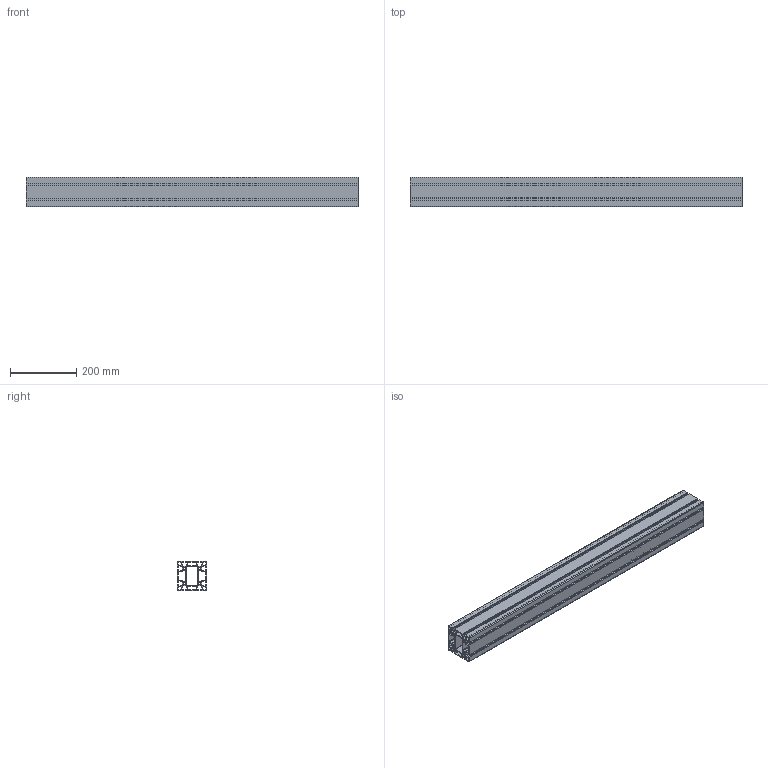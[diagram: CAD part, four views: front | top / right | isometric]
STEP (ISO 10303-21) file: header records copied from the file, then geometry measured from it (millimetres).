
FILE_DESCRIPTION (( 'STEP AP214' ), '1' );
FILE_NAME ('1.0131 90X90 H 6m musta 1000mm.STEP', '2026-03-17T08:26:44', ( '' ), ( '' ), 'SwSTEP 2.0', 'SolidWorks 2025', '' );
FILE_SCHEMA (( 'AUTOMOTIVE_DESIGN' ));
Length unit declared in the file: millimetre
Products named in the file (1): 1.0131 90X90 H 6m musta 1000mm
Bounding box: 1000 x 90 x 90 mm (x, y, z)
Volume: 2333280.7 mm3; surface area: 1490293.7 mm2
Topology: 1 solids, 1 shells, 350 faces, 1044 edges, 696 vertices
Faces by surface type: cylinder 188, plane 162
Entity records: 11959 total; most frequent: DIRECTION 2122, CARTESIAN_POINT 2091, ORIENTED_EDGE 2088, EDGE_CURVE 1044, AXIS2_PLACEMENT_3D 727, VERTEX_POINT 696, VECTOR 668, LINE 668
